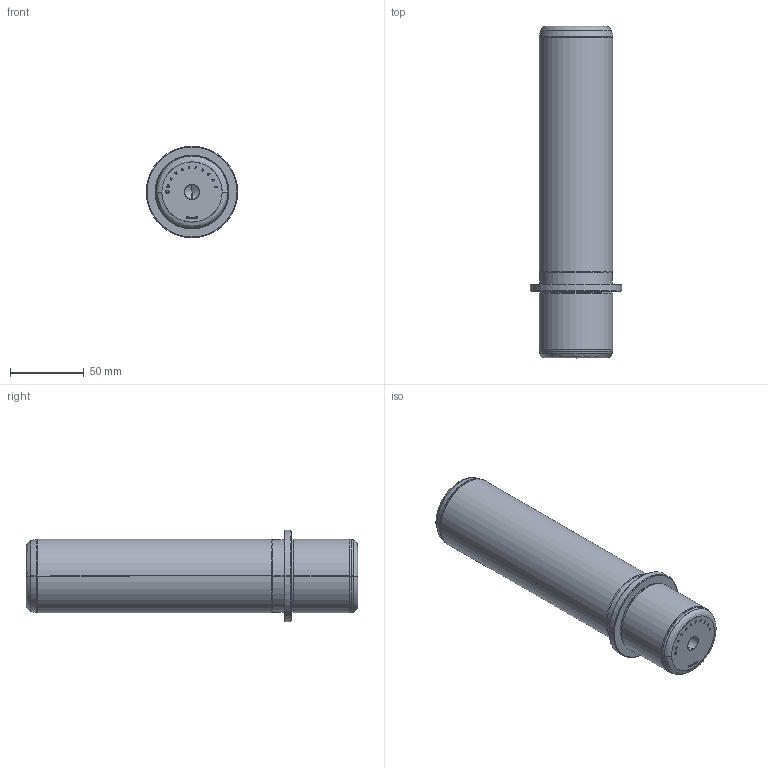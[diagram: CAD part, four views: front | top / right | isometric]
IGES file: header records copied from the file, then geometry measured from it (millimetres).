
Start section: SolidWorks IGES file using analytic representation for surfaces
Global section: file name: D:\Cleonir_arquivos\MT_15_07\Pinos Desmontáveis\PFG50180.igs; native system: SolidWorks 2013; preprocessor: SolidWorks 2013; author: Cleonir; date: 130730.162622; units: millimetre
Bounding box: 62 x 225 x 62 mm (x, y, z)
Surface area: 42922.6 mm2 (no closed solid volume)
Topology: 0 solids, 0 shells, 317 faces, 3818 edges, 3814 vertices
Faces by surface type: bspline 276, revolution 41
